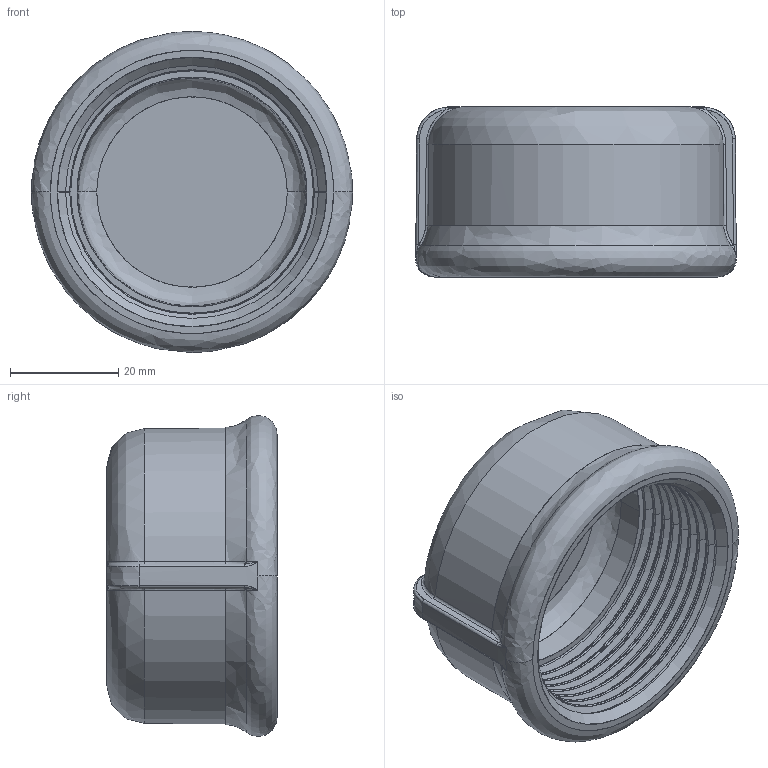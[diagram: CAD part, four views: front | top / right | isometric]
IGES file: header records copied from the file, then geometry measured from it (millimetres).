
Start section: SolidWorks IGES file using analytic representation for surfaces
Global section: file name: C:\Users\Joel Rosa\Desktop\Tubulação\12-42-XXX\12-42-009.IGS; native system: SolidWorks 2011; preprocessor: SolidWorks 2011; author: Joel Rosa; date: 131001.211158; units: millimetre
Bounding box: 59.4 x 31.5 x 59.4 mm (x, y, z)
Surface area: 15405.6 mm2 (no closed solid volume)
Topology: 0 solids, 0 shells, 247 faces, 2417 edges, 2417 vertices
Faces by surface type: bspline 203, revolution 44
